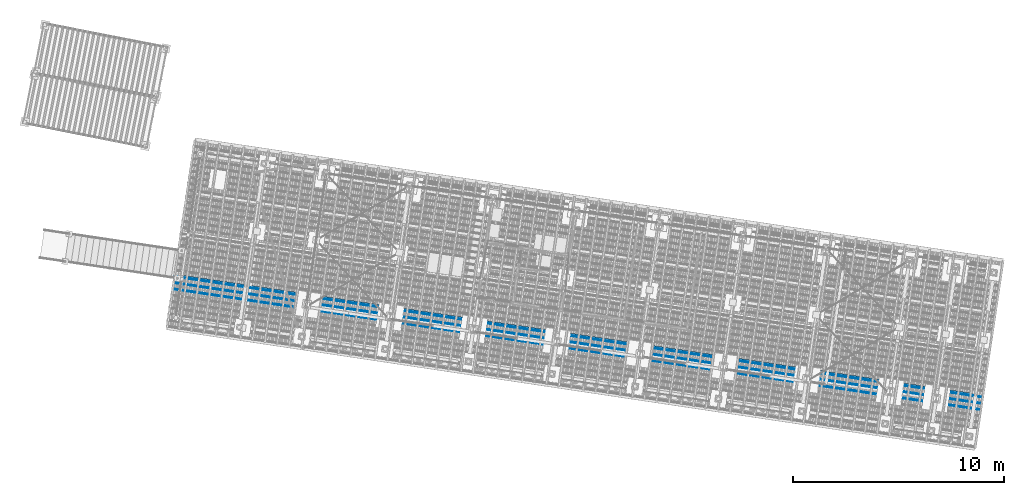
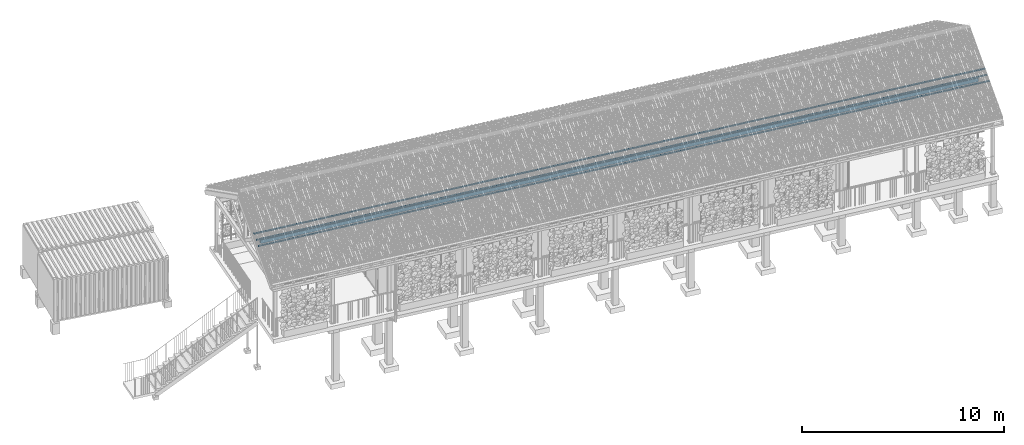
# One storey, part 79 of 131: 3 members, 1 beam, 1 element without a shape of its own.
"""IFC4 building model written with IfcOpenShell, lengths in metres."""

from ifc_helpers import new_model, si_unit, direction, frame, origin_with_axes, place, context, subcontext, project, spatial, rectangle, extrude, material, material_profile, profile_set, profile_usage, type_object, element, aggregate, save


model = new_model("IFC4")

# Units and contexts
model_context = context("Model", 3, precision=1e-05, world=origin_with_axes(), true_north=direction((0.0, 1.0)))
body_context = subcontext(model_context, "Body", "Model", "MODEL_VIEW")
ifc_project = project(units=[si_unit("VOLUMEUNIT", "CUBIC_METRE"), si_unit("LENGTHUNIT", "METRE"), si_unit("AREAUNIT", "SQUARE_METRE")], contexts=[model_context])

# Site, building, storey
site_placement = place(None, origin_with_axes())
site = spatial("IfcSite", under=ifc_project, at=site_placement, Name="Lares · Rua das Mercês · artigo 4771")
building_placement = place(site_placement, frame((15.0, 9.7, 15.8), z_axis=(0.0, 0.0, 1.0), x_axis=(0.989015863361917, -0.147809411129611, 0.0)))
building = spatial("IfcBuilding", under=site, at=building_placement, Name="Casa Sobreposta")
storey_placement = place(building_placement, origin_with_axes())
storey = spatial("IfcBuildingStorey", under=building, at=storey_placement, Name="00 · Habitação e estacionamento", Elevation=15.8)

# Roof, beam, members
ifc_material = material(Name="Madeira / Bauholz", Category="wood")
roof_placement = place(storey_placement, origin_with_axes())
roof = element("IfcRoof", 1, at=roof_placement, inside=storey, material=ifc_material, Name="Cobertura de telha · duas águas 30 graus", PredefinedType="GABLE_ROOF")
ifc_material_profile_1 = material_profile(ifc_material, rectangle(XDim=0.14, YDim=0.22))
ifc_profile_set_1 = profile_set([ifc_material_profile_1], Name="TIMBER0.140x0.220")
ifc_profile_usage_1 = profile_usage(ifc_profile_set_1)
beam_type = type_object("IfcBeamType", Name="TIMBER0.140x0.220 / timber", PredefinedType="NOTDEFINED", material=ifc_profile_set_1)
beam_placement = place(roof_placement, frame((-6.05, 0.55, 4.34450815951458), z_axis=(1.0, 0.0, 0.0), x_axis=(0.0, -1.0, 0.0)))
beam = element("IfcBeam", 2, at=beam_placement, type_object=beam_type, material=ifc_profile_usage_1, Name="Cobertura · terça", context=body_context, shape_type="SweptSolid", body=[
    extrude(rectangle(XDim=0.14, YDim=0.22), origin_with_axes(), (0.0, 0.0, 1.0), 38.1),
])
ifc_material_profile_2 = material_profile(ifc_material, rectangle(XDim=0.045, YDim=0.06))
ifc_profile_set_2 = profile_set([ifc_material_profile_2], Name="TIMBER0.045x0.060")
ifc_profile_usage_2 = profile_usage(ifc_profile_set_2)
member_type = type_object("IfcMemberType", Name="TIMBER0.045x0.060 / timber", PredefinedType="NOTDEFINED", material=ifc_profile_set_2)
member_1_placement = place(roof_placement, frame((-6.4, -0.0999999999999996, 4.57323048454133), z_axis=(1.0, 0.0, 0.0), x_axis=(0.0, -1.0, 0.0)))
member_1 = element("IfcMember", 3, at=member_1_placement, type_object=member_type, material=ifc_profile_usage_2, Name="Cobertura · ripa ventilada", context=body_context, shape_type="SweptSolid", body=[
    extrude(rectangle(XDim=0.045, YDim=0.06), origin_with_axes(), (0.0, 0.0, 1.0), 38.8),
])
ifc_profile_usage_3 = profile_usage(ifc_profile_set_2)
member_2_placement = place(roof_placement, frame((-6.4, 0.200000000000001, 4.74643556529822), z_axis=(1.0, 0.0, 0.0), x_axis=(0.0, -1.0, 0.0)))
member_2 = element("IfcMember", 4, at=member_2_placement, type_object=member_type, material=ifc_profile_usage_3, Name="Cobertura · ripa ventilada", context=body_context, shape_type="SweptSolid", body=[
    extrude(rectangle(XDim=0.045, YDim=0.06), origin_with_axes(), (0.0, 0.0, 1.0), 38.8),
])
ifc_profile_usage_4 = profile_usage(ifc_profile_set_2)
member_3_placement = place(roof_placement, frame((-6.4, 0.5, 4.9196406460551), z_axis=(1.0, 0.0, 0.0), x_axis=(0.0, -1.0, 0.0)))
member_3 = element("IfcMember", 5, at=member_3_placement, type_object=member_type, material=ifc_profile_usage_4, Name="Cobertura · ripa ventilada", context=body_context, shape_type="SweptSolid", body=[
    extrude(rectangle(XDim=0.045, YDim=0.06), origin_with_axes(), (0.0, 0.0, 1.0), 38.8),
])
aggregate(roof, [beam, member_1, member_2, member_3])

save(model, "model.ifc")
